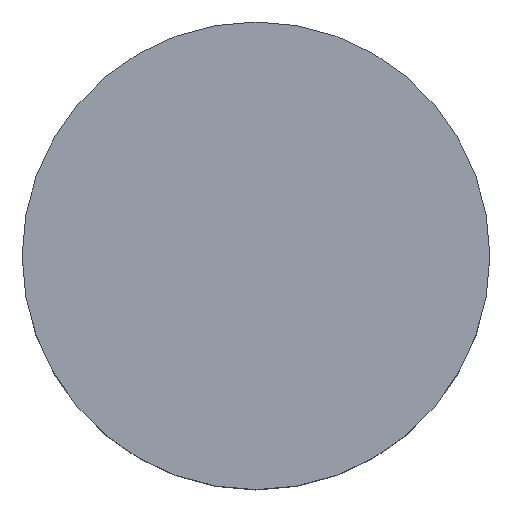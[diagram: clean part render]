
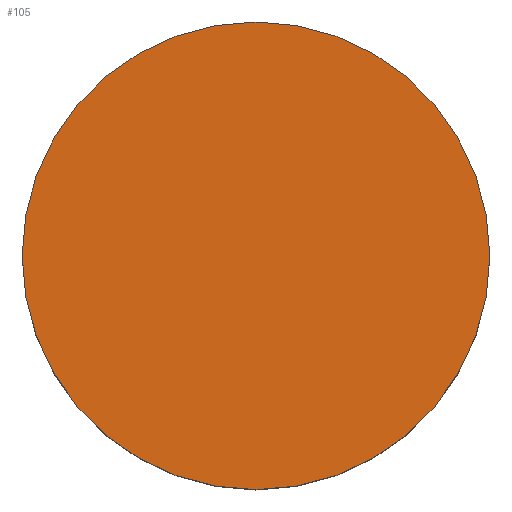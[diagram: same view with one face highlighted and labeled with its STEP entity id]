
A CAD part, top view. The second image highlights one B-rep face of the part: STEP entity #105.
In plain terms, the highlighted planar face has unit normal (0, 0, 1).
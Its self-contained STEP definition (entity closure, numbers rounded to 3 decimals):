
#21 = EDGE_CURVE('',#22,#22,#24,.T.);
#22 = VERTEX_POINT('',#23);
#23 = CARTESIAN_POINT('',(33.4,-36.,25.55));
#24 = SURFACE_CURVE('',#25,(#30,#42),.PCURVE_S1.);
#25 = CIRCLE('',#26,1.9);
#26 = AXIS2_PLACEMENT_3D('',#27,#28,#29);
#27 = CARTESIAN_POINT('',(31.5,-36.,25.55));
#28 = DIRECTION('',(0.,0.,1.));
#29 = DIRECTION('',(1.,0.,-0.));
#30 = PCURVE('',#31,#36);
#31 = CYLINDRICAL_SURFACE('',#32,1.9);
#32 = AXIS2_PLACEMENT_3D('',#33,#34,#35);
#33 = CARTESIAN_POINT('',(31.5,-36.,24.05));
#34 = DIRECTION('',(0.,0.,1.));
#35 = DIRECTION('',(1.,0.,-0.));
#36 = DEFINITIONAL_REPRESENTATION('',(#37),#41);
#37 = LINE('',#38,#39);
#38 = CARTESIAN_POINT('',(0.,1.5));
#39 = VECTOR('',#40,1.);
#40 = DIRECTION('',(1.,0.));
#41 = ( GEOMETRIC_REPRESENTATION_CONTEXT(2) 
PARAMETRIC_REPRESENTATION_CONTEXT() REPRESENTATION_CONTEXT('2D SPACE',''
  ) );
#42 = PCURVE('',#43,#48);
#43 = PLANE('',#44);
#44 = AXIS2_PLACEMENT_3D('',#45,#46,#47);
#45 = CARTESIAN_POINT('',(31.5,-36.,25.55));
#46 = DIRECTION('',(0.,0.,1.));
#47 = DIRECTION('',(1.,0.,-0.));
#48 = DEFINITIONAL_REPRESENTATION('',(#49),#53);
#49 = CIRCLE('',#50,1.9);
#50 = AXIS2_PLACEMENT_2D('',#51,#52);
#51 = CARTESIAN_POINT('',(0.,0.));
#52 = DIRECTION('',(1.,0.));
#53 = ( GEOMETRIC_REPRESENTATION_CONTEXT(2) 
PARAMETRIC_REPRESENTATION_CONTEXT() REPRESENTATION_CONTEXT('2D SPACE',''
  ) );
#105 = ADVANCED_FACE('',(#106),#43,.T.);
#106 = FACE_BOUND('',#107,.T.);
#107 = EDGE_LOOP('',(#108));
#108 = ORIENTED_EDGE('',*,*,#21,.T.);
